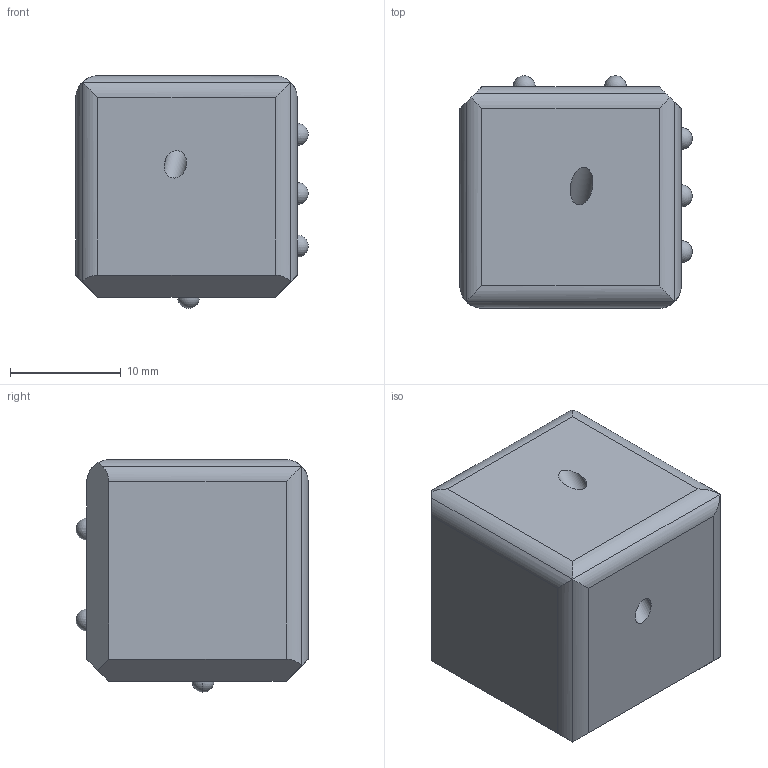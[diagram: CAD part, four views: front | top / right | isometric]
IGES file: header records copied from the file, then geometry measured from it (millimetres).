
Start section: 3D InterOp IGES (Version 22 0 0), Spatial Corp. Copyright (c) 1999-2007.
Global section: file name: cube5.igs; native system: Spatial Corp.; preprocessor: 3D InterOp ACIS/IGES; author: Noname; organization: Noname; date: 20120203.170359; units: millimetre
Bounding box: 20.99 x 20.99 x 21 mm (x, y, z)
Volume: 7670.3 mm3; surface area: 2288 mm2
Topology: 1 solids, 1 shells, 36 faces, 101 edges, 55 vertices
Faces by surface type: cylinder 14, plane 12, sphere 10
